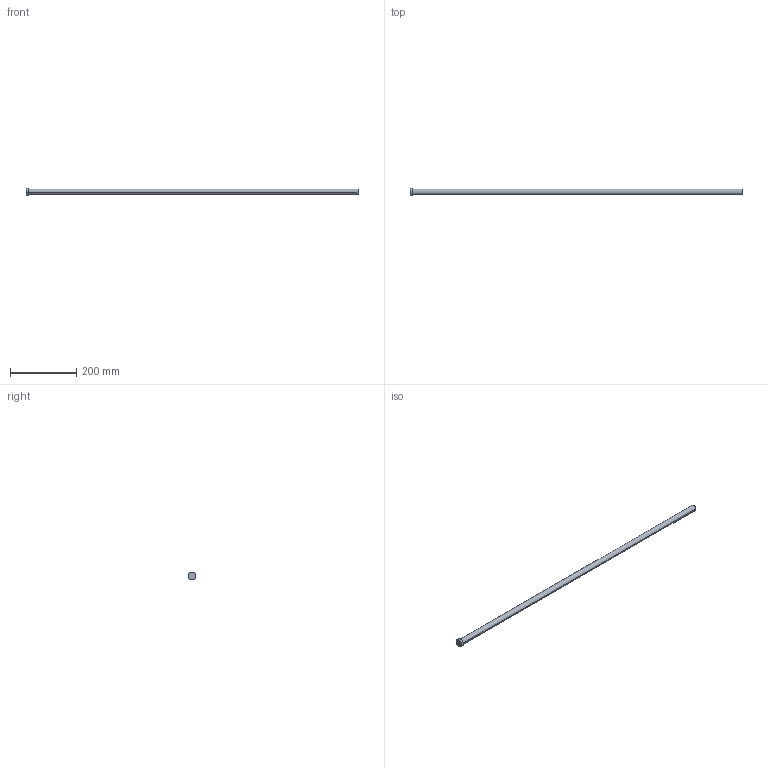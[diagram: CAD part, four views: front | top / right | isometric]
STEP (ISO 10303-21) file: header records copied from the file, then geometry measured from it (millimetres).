
FILE_DESCRIPTION (( 'STEP AP214' ), '1' );
FILE_NAME ('A-18x1000.STEP', '2020-05-29T16:23:38', ( 'August' ), ( '' ), 'SwSTEP 2.0', 'SolidWorks 2018', '' );
FILE_SCHEMA (( 'AUTOMOTIVE_DESIGN' ));
Length unit declared in the file: millimetre
Products named in the file (1): A-18x1000
Bounding box: 1000 x 24 x 24 mm (x, y, z)
Volume: 255862.4 mm3; surface area: 57566.3 mm2
Topology: 1 solids, 1 shells, 9 faces, 16 edges, 10 vertices
Faces by surface type: cylinder 4, plane 3, torus 2
Entity records: 260 total; most frequent: DIRECTION 48, CARTESIAN_POINT 36, ORIENTED_EDGE 32, AXIS2_PLACEMENT_3D 22, EDGE_CURVE 16, CIRCLE 12, VERTEX_POINT 10, EDGE_LOOP 10
